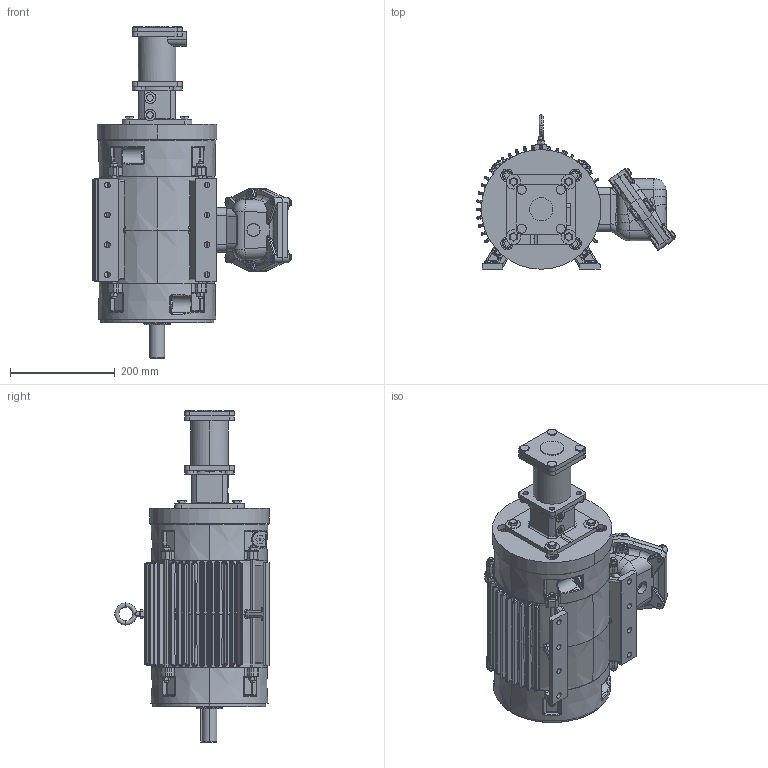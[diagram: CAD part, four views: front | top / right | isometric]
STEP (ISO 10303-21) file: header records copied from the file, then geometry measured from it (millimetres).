
FILE_DESCRIPTION (( 'STEP AP203' ), '1' );
FILE_NAME ('SS69060-800_Rev4.STEP', '2018-09-11T12:11:36', ( '' ), ( '' ), 'SwSTEP 2.0', 'SolidWorks 2015', '' );
FILE_SCHEMA (( 'CONFIG_CONTROL_DESIGN' ));
Products named in the file (1): SS69060-800_Rev4
Bounding box: 381.16 x 295.4 x 634.33 mm (x, y, z)
Volume: 6823117.2 mm3; surface area: 1480623.5 mm2
Topology: 47 solids, 47 shells, 3840 faces, 9127 edges, 5263 vertices
Faces by surface type: cylinder 1082, bspline 1070, plane 929, cone 381, torus 274, sphere 104
Entity records: 151740 total; most frequent: CARTESIAN_POINT 72532, ORIENTED_EDGE 17738, DIRECTION 15037, EDGE_CURVE 8869, AXIS2_PLACEMENT_3D 6172, VERTEX_POINT 5258, EDGE_LOOP 4151, FACE_OUTER_BOUND 3840
